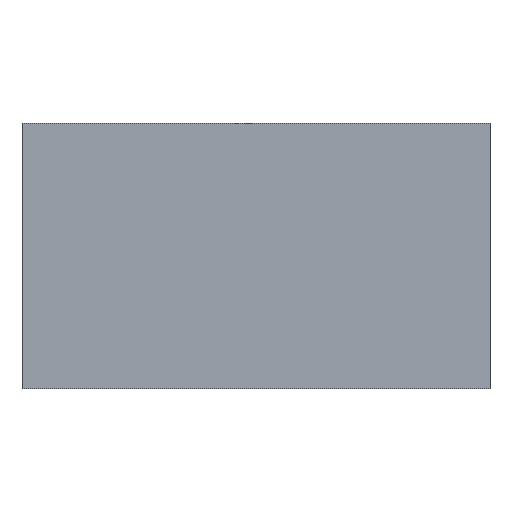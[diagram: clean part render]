
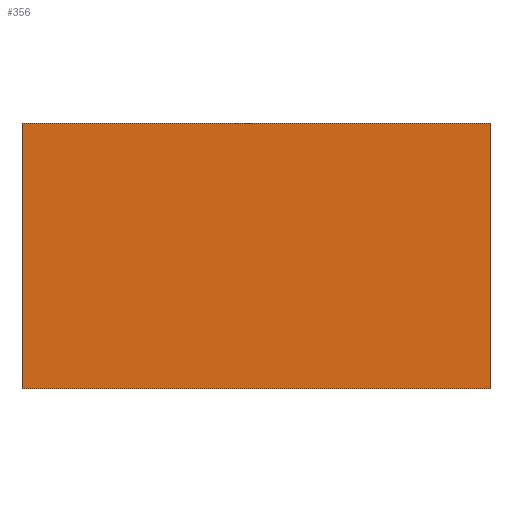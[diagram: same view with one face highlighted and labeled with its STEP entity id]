
A CAD part, top view. The second image highlights one B-rep face of the part: STEP entity #356.
In plain terms, the highlighted planar face has unit normal (0, 0, 1).
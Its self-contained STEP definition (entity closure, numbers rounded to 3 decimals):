
#42 = VERTEX_POINT('',#43);
#43 = CARTESIAN_POINT('',(-38.2,-21.7,14.2));
#50 = PLANE('',#51);
#51 = AXIS2_PLACEMENT_3D('',#52,#53,#54);
#52 = CARTESIAN_POINT('',(-38.2,-21.7,14.));
#53 = DIRECTION('',(1.,0.,0.));
#54 = DIRECTION('',(0.,0.,1.));
#62 = PLANE('',#63);
#63 = AXIS2_PLACEMENT_3D('',#64,#65,#66);
#64 = CARTESIAN_POINT('',(-38.2,-21.7,14.));
#65 = DIRECTION('',(0.,1.,0.));
#66 = DIRECTION('',(0.,0.,1.));
#103 = VERTEX_POINT('',#104);
#104 = CARTESIAN_POINT('',(-38.2,21.7,14.2));
#118 = PLANE('',#119);
#119 = AXIS2_PLACEMENT_3D('',#120,#121,#122);
#120 = CARTESIAN_POINT('',(-38.2,21.7,14.));
#121 = DIRECTION('',(0.,1.,0.));
#122 = DIRECTION('',(0.,0.,1.));
#130 = EDGE_CURVE('',#42,#103,#131,.T.);
#131 = SURFACE_CURVE('',#132,(#136,#143),.PCURVE_S1.);
#132 = LINE('',#133,#134);
#133 = CARTESIAN_POINT('',(-38.2,-21.7,14.2));
#134 = VECTOR('',#135,1.);
#135 = DIRECTION('',(0.,1.,0.));
#136 = PCURVE('',#50,#137);
#137 = DEFINITIONAL_REPRESENTATION('',(#138),#142);
#138 = LINE('',#139,#140);
#139 = CARTESIAN_POINT('',(0.2,0.));
#140 = VECTOR('',#141,1.);
#141 = DIRECTION('',(0.,-1.));
#142 = ( GEOMETRIC_REPRESENTATION_CONTEXT(2) 
PARAMETRIC_REPRESENTATION_CONTEXT() REPRESENTATION_CONTEXT('2D SPACE',''
  ) );
#143 = PCURVE('',#144,#149);
#144 = PLANE('',#145);
#145 = AXIS2_PLACEMENT_3D('',#146,#147,#148);
#146 = CARTESIAN_POINT('',(-38.2,-21.7,14.2));
#147 = DIRECTION('',(0.,0.,1.));
#148 = DIRECTION('',(1.,0.,0.));
#149 = DEFINITIONAL_REPRESENTATION('',(#150),#154);
#150 = LINE('',#151,#152);
#151 = CARTESIAN_POINT('',(0.,0.));
#152 = VECTOR('',#153,1.);
#153 = DIRECTION('',(0.,1.));
#154 = ( GEOMETRIC_REPRESENTATION_CONTEXT(2) 
PARAMETRIC_REPRESENTATION_CONTEXT() REPRESENTATION_CONTEXT('2D SPACE',''
  ) );
#162 = VERTEX_POINT('',#163);
#163 = CARTESIAN_POINT('',(38.2,-21.7,14.2));
#170 = PLANE('',#171);
#171 = AXIS2_PLACEMENT_3D('',#172,#173,#174);
#172 = CARTESIAN_POINT('',(38.2,-21.7,14.));
#173 = DIRECTION('',(1.,0.,0.));
#174 = DIRECTION('',(0.,0.,1.));
#213 = VERTEX_POINT('',#214);
#214 = CARTESIAN_POINT('',(38.2,21.7,14.2));
#235 = EDGE_CURVE('',#162,#213,#236,.T.);
#236 = SURFACE_CURVE('',#237,(#241,#248),.PCURVE_S1.);
#237 = LINE('',#238,#239);
#238 = CARTESIAN_POINT('',(38.2,-21.7,14.2));
#239 = VECTOR('',#240,1.);
#240 = DIRECTION('',(0.,1.,0.));
#241 = PCURVE('',#170,#242);
#242 = DEFINITIONAL_REPRESENTATION('',(#243),#247);
#243 = LINE('',#244,#245);
#244 = CARTESIAN_POINT('',(0.2,0.));
#245 = VECTOR('',#246,1.);
#246 = DIRECTION('',(0.,-1.));
#247 = ( GEOMETRIC_REPRESENTATION_CONTEXT(2) 
PARAMETRIC_REPRESENTATION_CONTEXT() REPRESENTATION_CONTEXT('2D SPACE',''
  ) );
#248 = PCURVE('',#144,#249);
#249 = DEFINITIONAL_REPRESENTATION('',(#250),#254);
#250 = LINE('',#251,#252);
#251 = CARTESIAN_POINT('',(76.4,0.));
#252 = VECTOR('',#253,1.);
#253 = DIRECTION('',(0.,1.));
#254 = ( GEOMETRIC_REPRESENTATION_CONTEXT(2) 
PARAMETRIC_REPRESENTATION_CONTEXT() REPRESENTATION_CONTEXT('2D SPACE',''
  ) );
#281 = EDGE_CURVE('',#42,#162,#282,.T.);
#282 = SURFACE_CURVE('',#283,(#287,#294),.PCURVE_S1.);
#283 = LINE('',#284,#285);
#284 = CARTESIAN_POINT('',(-38.2,-21.7,14.2));
#285 = VECTOR('',#286,1.);
#286 = DIRECTION('',(1.,0.,0.));
#287 = PCURVE('',#62,#288);
#288 = DEFINITIONAL_REPRESENTATION('',(#289),#293);
#289 = LINE('',#290,#291);
#290 = CARTESIAN_POINT('',(0.2,0.));
#291 = VECTOR('',#292,1.);
#292 = DIRECTION('',(0.,1.));
#293 = ( GEOMETRIC_REPRESENTATION_CONTEXT(2) 
PARAMETRIC_REPRESENTATION_CONTEXT() REPRESENTATION_CONTEXT('2D SPACE',''
  ) );
#294 = PCURVE('',#144,#295);
#295 = DEFINITIONAL_REPRESENTATION('',(#296),#300);
#296 = LINE('',#297,#298);
#297 = CARTESIAN_POINT('',(0.,0.));
#298 = VECTOR('',#299,1.);
#299 = DIRECTION('',(1.,0.));
#300 = ( GEOMETRIC_REPRESENTATION_CONTEXT(2) 
PARAMETRIC_REPRESENTATION_CONTEXT() REPRESENTATION_CONTEXT('2D SPACE',''
  ) );
#328 = EDGE_CURVE('',#103,#213,#329,.T.);
#329 = SURFACE_CURVE('',#330,(#334,#341),.PCURVE_S1.);
#330 = LINE('',#331,#332);
#331 = CARTESIAN_POINT('',(-38.2,21.7,14.2));
#332 = VECTOR('',#333,1.);
#333 = DIRECTION('',(1.,0.,0.));
#334 = PCURVE('',#118,#335);
#335 = DEFINITIONAL_REPRESENTATION('',(#336),#340);
#336 = LINE('',#337,#338);
#337 = CARTESIAN_POINT('',(0.2,0.));
#338 = VECTOR('',#339,1.);
#339 = DIRECTION('',(0.,1.));
#340 = ( GEOMETRIC_REPRESENTATION_CONTEXT(2) 
PARAMETRIC_REPRESENTATION_CONTEXT() REPRESENTATION_CONTEXT('2D SPACE',''
  ) );
#341 = PCURVE('',#144,#342);
#342 = DEFINITIONAL_REPRESENTATION('',(#343),#347);
#343 = LINE('',#344,#345);
#344 = CARTESIAN_POINT('',(0.,43.4));
#345 = VECTOR('',#346,1.);
#346 = DIRECTION('',(1.,0.));
#347 = ( GEOMETRIC_REPRESENTATION_CONTEXT(2) 
PARAMETRIC_REPRESENTATION_CONTEXT() REPRESENTATION_CONTEXT('2D SPACE',''
  ) );
#356 = ADVANCED_FACE('',(#357),#144,.T.);
#357 = FACE_BOUND('',#358,.T.);
#358 = EDGE_LOOP('',(#359,#360,#361,#362));
#359 = ORIENTED_EDGE('',*,*,#130,.F.);
#360 = ORIENTED_EDGE('',*,*,#281,.T.);
#361 = ORIENTED_EDGE('',*,*,#235,.T.);
#362 = ORIENTED_EDGE('',*,*,#328,.F.);
